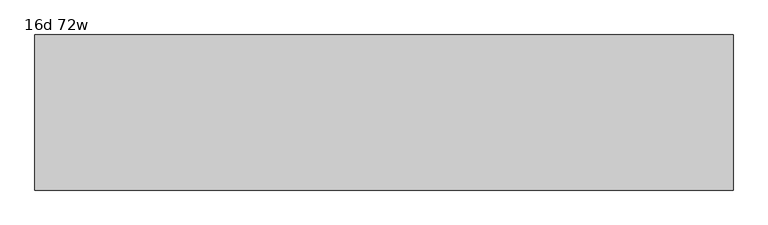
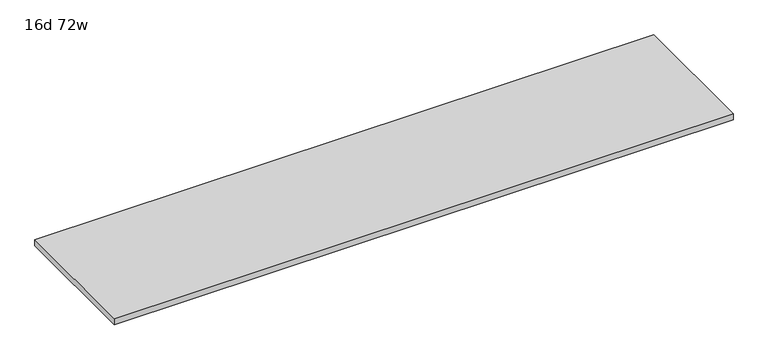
"""IFC4 building model written with IfcOpenShell, lengths in millimetres: furniture geometry, Haworth_BeHold_CommonTop : 16d 72w."""

from ifc_helpers import new_model, si_unit, frame, origin, place, context, project, spatial, polyline, outline, extrude, source, transform, mapped, element, save


def furniture_16d_72w_5ced461d(model_context):
    return source(origin(), model_context, "Body", "SweptSolid", [
        extrude(outline(polyline([(757.5408447, -88.9), (757.5408447, -495.3), (-1071.2591553, -495.3), (-1071.2591553, -88.9), (757.5408447, -88.9)])), frame((0.0, 0.0, 539.75), z_axis=(0.0, 0.0, 1.0), x_axis=(1.0, 0.0, 0.0)), (0.0, 0.0, 1.0), 19.05),
    ])


if __name__ == "__main__":
    model = new_model("IFC4")
    model_context = context("Model", 3, world=origin())
    ifc_project = project(units=[si_unit("LENGTHUNIT", "METRE", prefix="MILLI")], contexts=[model_context])
    site = spatial("IfcSite", under=ifc_project)
    building = spatial("IfcBuilding", under=site)
    placement = place(None, origin())
    furniture_16d_72w_shape = furniture_16d_72w_5ced461d(model_context)
    element("IfcFurniture", 1, ObjectType="Haworth_BeHold_CommonTop : 16d 72w", at=placement, inside=building, context=model_context, shape_type="MappedRepresentation", body=[
        mapped(furniture_16d_72w_shape, transform((0.0, 0.0, 0.0), x_axis=(1.0, 0.0, 0.0), y_axis=(0.0, 1.0, 0.0), z_axis=(0.0, 0.0, 1.0))),
    ])
    save(model, "model.ifc")
